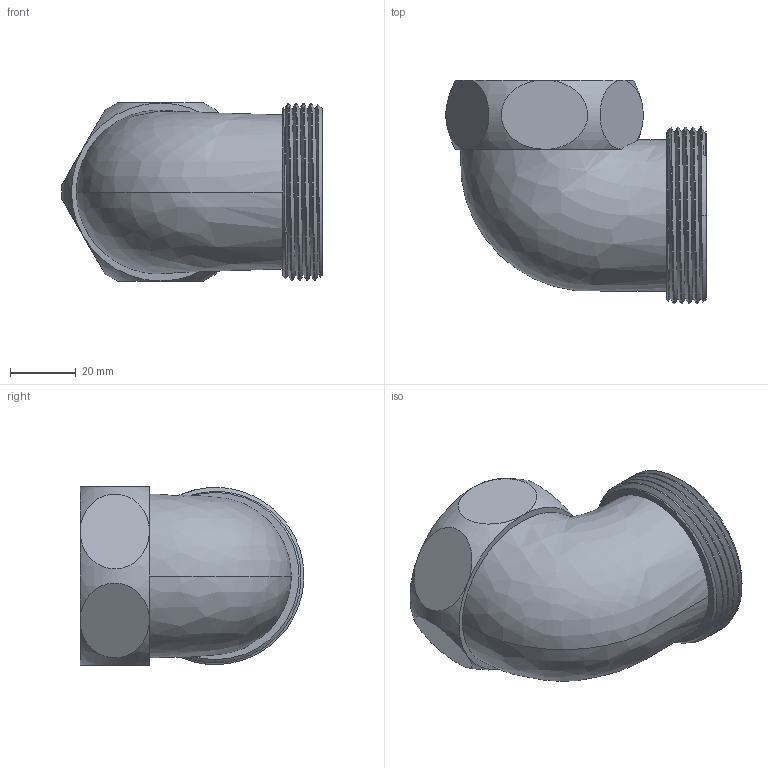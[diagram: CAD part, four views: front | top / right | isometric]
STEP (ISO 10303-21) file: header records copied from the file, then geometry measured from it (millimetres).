
FILE_DESCRIPTION (( 'STEP AP203' ), '1' );
FILE_NAME ('112x134.STEP', '2012-06-30T07:56:19', ( 'Administrators' ), ( 'JUJUMAO' ), 'SwSTEP 2.0', 'SolidWorks 2008', '' );
FILE_SCHEMA (( 'CONFIG_CONTROL_DESIGN' ));
Length unit declared in the file: millimetre
Products named in the file (1): 112x134
Bounding box: 78.91 x 67.81 x 54 mm (x, y, z)
Volume: 45170.2 mm3; surface area: 29711.5 mm2
Topology: 1 solids, 1 shells, 86 faces, 236 edges, 155 vertices
Faces by surface type: bspline 31, cylinder 28, plane 14, cone 7, torus 6
Entity records: 13294 total; most frequent: CARTESIAN_POINT 11513, ORIENTED_EDGE 472, EDGE_CURVE 236, DIRECTION 194, VERTEX_POINT 155, B_SPLINE_CURVE_WITH_KNOTS 127, EDGE_LOOP 91, ADVANCED_FACE 86
